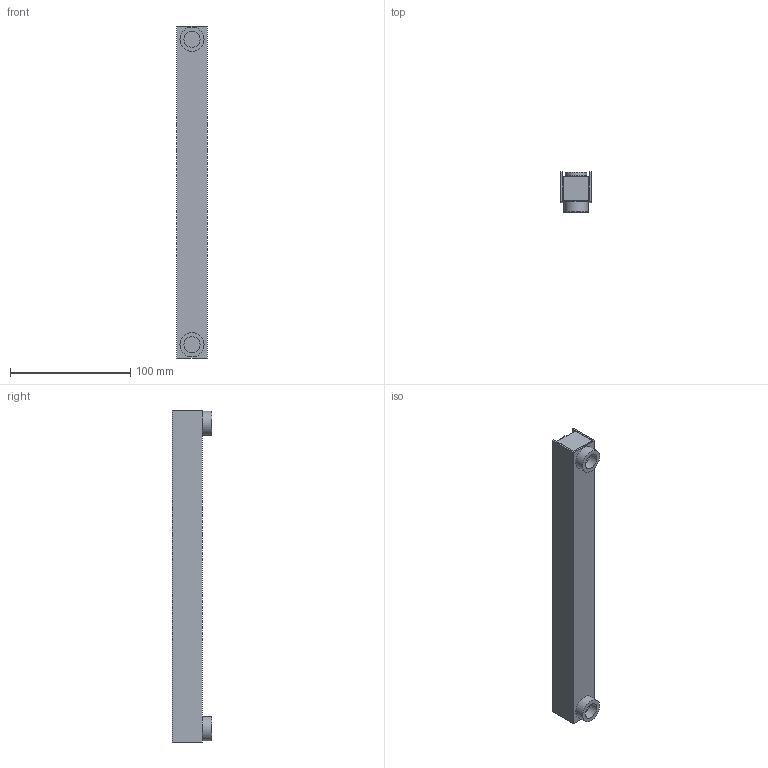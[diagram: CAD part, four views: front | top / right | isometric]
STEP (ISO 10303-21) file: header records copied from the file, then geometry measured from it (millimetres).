
FILE_DESCRIPTION(/* description */ ('MMF.1038'),/* implementation_level */ '2;1');
FILE_NAME(/* name */ 'C:\Vault Workingfolder\Engineering Workspace\Purchased Components\Parker\Level Gauge\S25200 Level Gauge 254mm.stp',/* time_stamp */ '2021-07-01T14:03:52+02:00',/* author */ ('ShoreTensionPatrickB'),/* organization */ (''),/* preprocessor_version */ 'ST-DEVELOPER v18.1',/* originating_system */ 'Autodesk Inventor 2021',/* authorisation */ '');
FILE_SCHEMA (('AUTOMOTIVE_DESIGN { 1 0 10303 214 3 1 1 }'));
Length unit declared in the file: millimetre
Products named in the file (1): S25200
Bounding box: 25 x 33 x 276 mm (x, y, z)
Volume: 105408.6 mm3; surface area: 64209.1 mm2
Topology: 8 solids, 8 shells, 63 faces, 133 edges, 88 vertices
Faces by surface type: plane 46, cylinder 11, cone 4, torus 2
Full cylindrical faces by diameter (mm): 13.5 x6, 18 x3, 20 x2
Entity records: 2002 total; most frequent: CARTESIAN_POINT 549, DIRECTION 283, ORIENTED_EDGE 266, EDGE_CURVE 133, AXIS2_PLACEMENT_3D 98, VERTEX_POINT 88, LINE 87, VECTOR 87
